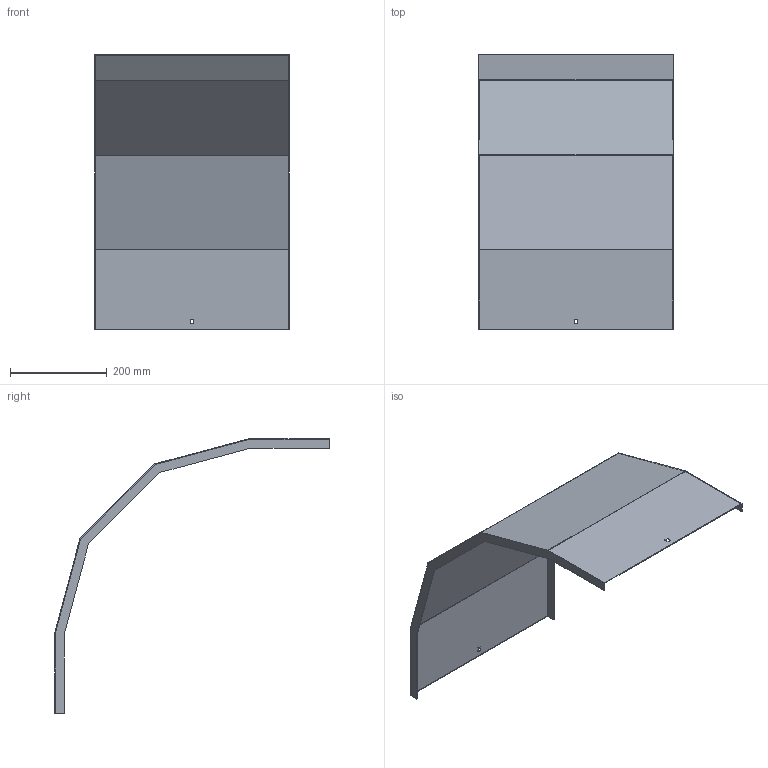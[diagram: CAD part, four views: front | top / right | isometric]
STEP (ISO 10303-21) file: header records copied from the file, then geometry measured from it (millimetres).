
FILE_DESCRIPTION (( 'STEP AP214' ), '1' );
FILE_NAME ('A2_33N3D400.step', '2025-02-21T10:45:00', ( '' ), ( '' ), 'SwSTEP 2.0', 'SolidWorks 2023', '' );
FILE_SCHEMA (( 'AUTOMOTIVE_DESIGN' ));
Length unit declared in the file: millimetre
Products named in the file (1): A2_33N3D400
Bounding box: 403 x 569.61 x 569.61 mm (x, y, z)
Volume: 629745.1 mm3; surface area: 843851.8 mm2
Topology: 1 solids, 1 shells, 34 faces, 96 edges, 64 vertices
Faces by surface type: plane 34
Entity records: 1111 total; most frequent: CARTESIAN_POINT 195, ORIENTED_EDGE 192, DIRECTION 166, LINE 96, VECTOR 96, EDGE_CURVE 96, VERTEX_POINT 64, EDGE_LOOP 38
